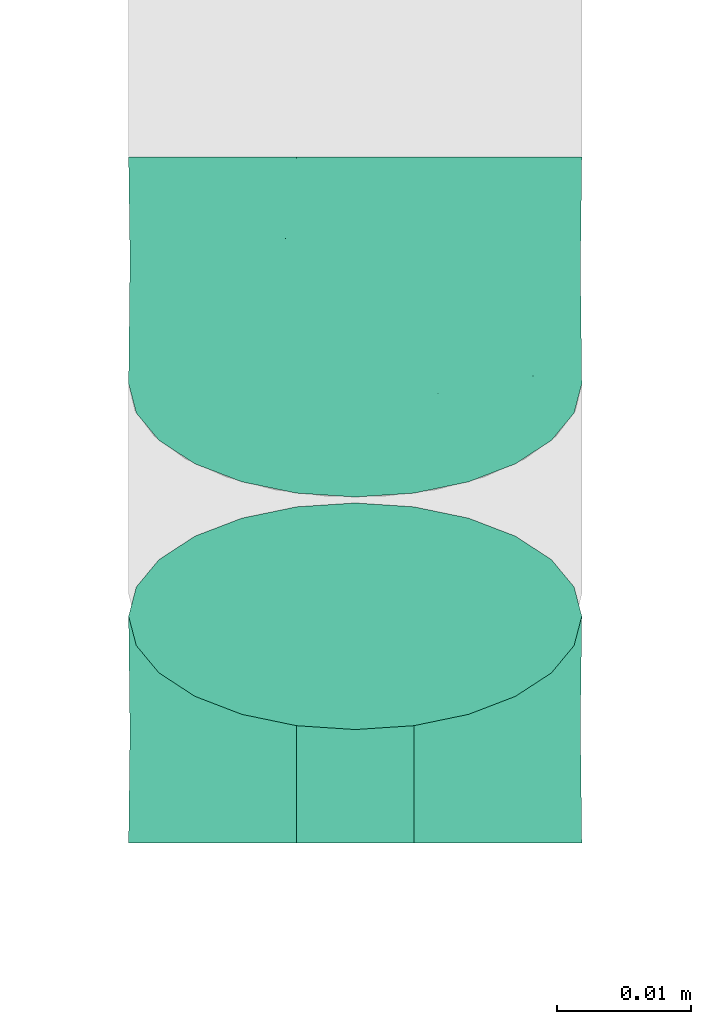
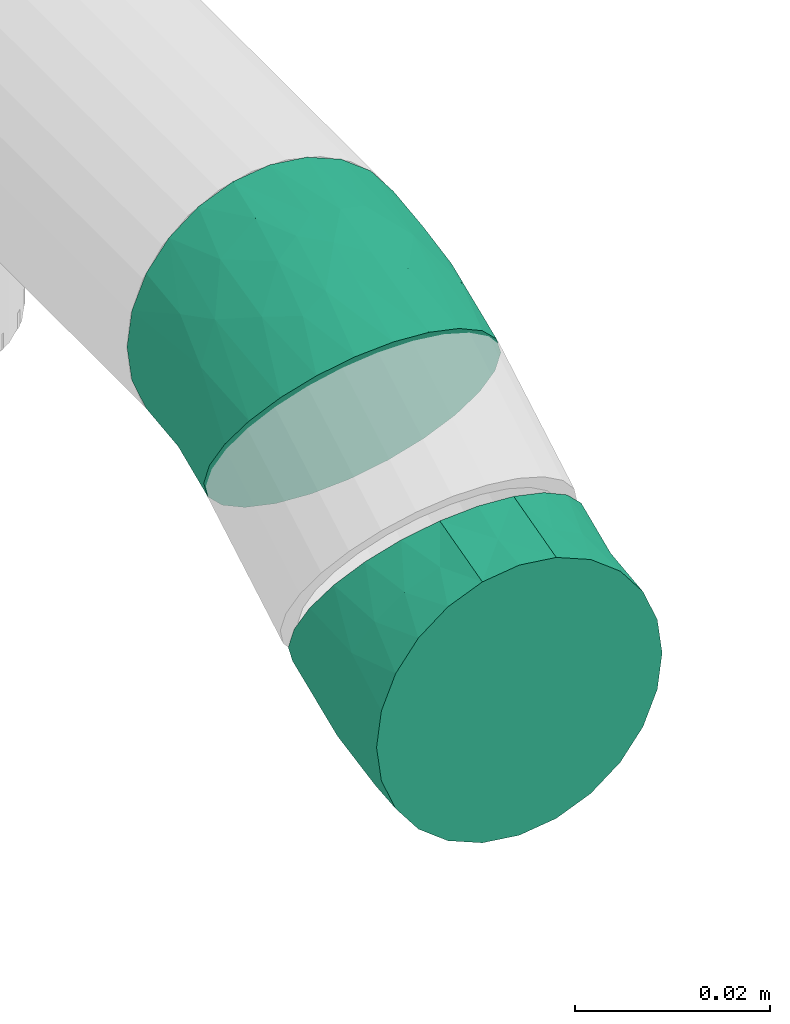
# One storey, part 17 of 17: 2 flow fittings.
"""IFC2X3 building model written with IfcOpenShell, lengths in millimetres."""

from ifc_helpers import new_model, entity, si_unit, converted_unit, derived_unit, direction, frame, origin_with_axes, place, context, subcontext, project, spatial, open_shell, surface_model, source, transform, mapped, type_object, element, save


model = new_model("IFC2X3")

# Units and contexts
model_context = context("Model", 3, precision=0.01, world=frame((0.0, 4.29681676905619e-09, 0.0)), true_north=direction((4.01073788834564e-13, 1.0)))
plan_context = context("Plan", 3, precision=0.01, world=frame((0.0, 4.29681676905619e-09, 0.0)), true_north=direction((4.01073788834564e-13, 1.0)))
body_context = subcontext(model_context, "Body", "Model", "MODEL_VIEW")
ifc_project = project(units=[converted_unit("PLANEANGLEUNIT", "DEGREE", entity("IfcPositiveLengthMeasure", 0.0174532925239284), si_unit("PLANEANGLEUNIT", "RADIAN"), dimensions=[0, 0, 0, 0, 0, 0, 0]), si_unit("AREAUNIT", "SQUARE_METRE"), si_unit("LENGTHUNIT", "METRE", prefix="MILLI"), si_unit("MASSUNIT", "GRAM", prefix="KILO"), si_unit("POWERUNIT", "WATT"), si_unit("PRESSUREUNIT", "PASCAL"), si_unit("FORCEUNIT", "NEWTON", prefix="KILO"), si_unit("ELECTRICVOLTAGEUNIT", "VOLT"), si_unit("ELECTRICCURRENTUNIT", "AMPERE"), si_unit("THERMODYNAMICTEMPERATUREUNIT", "DEGREE_CELSIUS"), si_unit("TIMEUNIT", "SECOND"), si_unit("VOLUMEUNIT", "CUBIC_METRE"), derived_unit("LINEARVELOCITYUNIT", [(si_unit("LENGTHUNIT", "METRE"), 1), (si_unit("TIMEUNIT", "SECOND"), -1)]), derived_unit("VOLUMETRICFLOWRATEUNIT", [(si_unit("VOLUMEUNIT", "CUBIC_METRE"), 1), (si_unit("TIMEUNIT", "SECOND"), -1)]), derived_unit("THERMALTRANSMITTANCEUNIT", [(si_unit("POWERUNIT", "WATT"), 1), (si_unit("THERMODYNAMICTEMPERATUREUNIT", "KELVIN"), -1), (si_unit("AREAUNIT", "SQUARE_METRE"), -1)]), derived_unit("SOUNDPRESSUREUNIT", [(si_unit("PRESSUREUNIT", "PASCAL"), 1)])], contexts=[model_context, plan_context])

# Site, building, storey
site_placement = place(None, frame((0.0, -4.29681676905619e-09, 0.0), z_axis=(0.0, 0.0, 1.0), x_axis=(1.0, 0.0, 0.0)))
site = spatial("IfcSite", under=ifc_project, at=site_placement, Name="ENGM", CompositionType="ELEMENT")
building_placement = place(site_placement, frame((0.0, 4.29681676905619e-09, 0.0), z_axis=(0.0, 0.0, 1.0), x_axis=(1.0, 0.0, 0.0)))
building = spatial("IfcBuilding", under=site, at=building_placement, Name="TH", CompositionType="ELEMENT")
storey_placement = place(building_placement, frame((0.0, 0.0, 205200.0), z_axis=(0.0, 0.0, 1.0), x_axis=(1.0, 0.0, 0.0)))
storey = spatial("IfcBuildingStorey", under=building, at=storey_placement, Name="Nivå D + 1,2 m", CompositionType="ELEMENT", Elevation=205200.0)

# Flow fittings
pipe_fitting_type = type_object("IfcPipeFittingType", Name="magi_pipe_fe_elbow_short_001", PredefinedType="BEND")
shared_shape_1 = source(origin_with_axes(), body_context, "Body", "SurfaceModel", [
    surface_model("IfcShellBasedSurfaceModel", [(-9.05662, 4.37404, -16.32415), (-9.05662, 0.0, -16.9), (-9.05662, 11.9501, -11.9501), (-9.05662, 8.45, -14.63583), (-9.05662, 16.32415, -4.37404), (-9.05662, 14.63583, -8.45), (-9.05662, -14.63583, -8.45), (-9.05662, -16.32415, -4.37404), (-9.05662, -8.45, 14.63583), (-9.05662, -11.9501, -11.9501), (-9.05662, -8.45, -14.63583), (-9.05662, -4.37404, -16.32415), (-9.05662, -16.9, 0.0), (-9.05662, -16.32415, 4.37404), (-9.05662, 11.9501, 11.9501), (-9.05662, 16.32415, 4.37404), (-9.05662, 14.63583, 8.45), (-9.05662, 4.37404, 16.32415), (-9.05662, 8.45, 14.63583), (-9.05662, -14.63583, 8.45), (-9.05662, -11.9501, 11.9501), (-9.05662, -4.37404, 16.32415), (-9.05662, 0.0, 16.9), (-9.05662, 16.9, 0.0), (5.65627, 8.31632, -16.32415), (13.81829, -5.82084, -11.9501), (7.84328, 4.52828, -16.9), (1.86826, 14.8774, -11.9501), (3.6183, 11.84621, -14.63583), (13.81829, -5.82084, 11.9501), (15.16115, -8.14675, -8.45), (0.52541, 17.20331, -8.45), (1.86826, 14.8774, 11.9501), (10.03028, 0.74024, -16.32415), (12.06825, -2.78965, -14.63583), (16.0053, -9.60887, -4.37404), (16.0053, -9.60887, 4.37404), (16.29322, -10.10758, 0.0), (-0.60667, 19.16414, 0.0), (-0.31875, 18.66543, -4.37404), (-0.31875, 18.66543, 4.37404), (0.52541, 17.20331, 8.45), (3.6183, 11.84621, 14.63583), (5.65627, 8.31632, 16.32415), (15.16115, -8.14675, 8.45), (12.06825, -2.78965, 14.63583), (7.84328, 4.52828, 16.9), (10.03028, 0.74024, 16.32415), (3.23519, -12.07399, 9.90621), (-0.48784, -9.71244, 13.20406), (1.46394, -5.46353, 15.45015), (-1.16441, -1.65592, 16.71051), (-0.25354, -14.95401, 6.14714), (0.04135, -15.78334, 3.11142), (6.38377, -14.18251, 3.14057), (-0.78873, 2.94361, 16.79787), (-3.73717, 13.94741, 10.49402), (-2.91099, 10.86406, 13.58335), (7.22683, -7.38252, 13.25433), (-1.86955, 7.12079, 15.73356), (-4.6826, 17.47585, 0.0), (4.06542, -15.17246, 0.0), (8.50871, -13.33201, 0.0), (-0.70281, -15.80021, 0.0), (8.57418, -12.48467, 6.18145), (0.36073, -1.34625, -16.70097), (-1.44637, 2.8041, -16.79471), (3.63901, -4.72838, -15.48641), (-3.73717, 13.94741, -10.49402), (3.06375, -14.28622, -6.02326), (-2.97776, -15.70985, -5.19527), (-1.78767, -13.01496, -10.065), (-2.911, 10.86406, -13.58335), (9.63733, -11.74231, -6.89446), (8.79071, -13.22116, -3.68076), (6.65864, -10.92988, -10.01854), (-1.93993, -7.69397, -14.7215), (2.44468, -9.12373, -13.13184), (-1.97596, 7.09389, -15.73298), (1.57237, -15.49788, -3.00495)], [open_shell([[[0, 1, 2]], [[3, 0, 2]], [[4, 5, 2]], [[6, 2, 1]], [[2, 7, 8]], [[9, 6, 10]], [[1, 11, 10]], [[1, 10, 6]], [[6, 7, 2]], [[12, 13, 7]], [[4, 2, 14]], [[14, 15, 4]], [[16, 15, 14]], [[17, 18, 14]], [[2, 8, 14]], [[17, 14, 8]], [[19, 20, 13]], [[13, 20, 7]], [[21, 22, 8]], [[20, 8, 7]], [[8, 22, 17]], [[23, 4, 15]], [[24, 25, 26]], [[27, 24, 28]], [[29, 30, 24]], [[31, 24, 27]], [[24, 31, 32]], [[33, 25, 34]], [[33, 26, 25]], [[30, 25, 24]], [[30, 29, 35]], [[35, 36, 37]], [[38, 31, 39]], [[32, 38, 40]], [[32, 40, 41]], [[32, 42, 43]], [[32, 29, 24]], [[29, 32, 43]], [[44, 36, 35]], [[29, 44, 35]], [[45, 46, 47]], [[46, 45, 29]], [[43, 46, 29]], [[38, 32, 31]], [[19, 48, 20]], [[49, 50, 8]], [[8, 20, 49]], [[44, 29, 48]], [[22, 21, 51]], [[21, 8, 50]], [[52, 53, 54]], [[51, 55, 22]], [[22, 55, 17]], [[46, 43, 55]], [[48, 19, 52]], [[45, 47, 50]], [[14, 56, 16]], [[57, 14, 18]], [[58, 48, 29]], [[20, 48, 49]], [[17, 59, 18]], [[60, 15, 40]], [[19, 13, 52]], [[60, 23, 15]], [[40, 15, 16]], [[21, 50, 51]], [[17, 55, 59]], [[57, 59, 42]], [[53, 61, 54]], [[62, 54, 61]], [[51, 46, 55]], [[45, 58, 29]], [[12, 63, 53]], [[51, 47, 46]], [[48, 58, 49]], [[52, 64, 48]], [[32, 41, 56]], [[49, 58, 50]], [[50, 58, 45]], [[37, 36, 62]], [[13, 53, 52]], [[57, 56, 14]], [[41, 40, 16]], [[38, 60, 40]], [[54, 36, 64]], [[48, 64, 44]], [[36, 54, 62]], [[43, 59, 55]], [[42, 32, 57]], [[32, 56, 57]], [[12, 53, 13]], [[16, 56, 41]], [[43, 42, 59]], [[59, 57, 18]], [[52, 54, 64]], [[44, 64, 36]], [[61, 53, 63]], [[47, 51, 50]], [[1, 65, 11]], [[26, 66, 24]], [[33, 34, 67]], [[65, 1, 66]], [[68, 2, 5]], [[69, 70, 71]], [[2, 68, 72]], [[73, 35, 74]], [[39, 5, 4]], [[25, 30, 75]], [[76, 67, 77]], [[0, 78, 66]], [[79, 70, 69]], [[6, 70, 7]], [[79, 7, 70]], [[71, 70, 6]], [[9, 10, 76]], [[24, 78, 28]], [[7, 79, 63]], [[6, 9, 71]], [[67, 76, 11]], [[78, 72, 28]], [[72, 68, 27]], [[77, 71, 9]], [[4, 23, 60]], [[37, 74, 35]], [[60, 38, 39]], [[31, 68, 5]], [[73, 75, 30]], [[39, 31, 5]], [[68, 31, 27]], [[71, 77, 75]], [[24, 66, 78]], [[11, 65, 67]], [[1, 0, 66]], [[2, 72, 3]], [[78, 0, 3]], [[65, 66, 26]], [[33, 67, 65]], [[34, 77, 67]], [[72, 78, 3]], [[77, 34, 25]], [[74, 79, 69]], [[69, 71, 75]], [[79, 74, 61]], [[63, 12, 7]], [[37, 62, 74]], [[25, 75, 77]], [[27, 28, 72]], [[33, 65, 26]], [[74, 62, 61]], [[4, 60, 39]], [[73, 74, 69]], [[63, 79, 61]], [[75, 73, 69]], [[35, 73, 30]], [[9, 76, 77]], [[11, 76, 10]]])]),
])
flow_fitting_1_placement = place(storey_placement, frame((908433.37511, 482177.07235, 4451.24450999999), z_axis=(1.0, 0.0, 0.0), x_axis=(0.0, -1.0, 0.0)))
element("IfcFlowFitting", 1, at=flow_fitting_1_placement, inside=storey, type_object=pipe_fitting_type, Name="magi_pipe_fe_elbow_short_001", context=body_context, shape_type="MappedRepresentation", body=[
    mapped(shared_shape_1, transform((0.0, 0.0, 0.0), scale=1.0)),
])
shared_shape_2 = source(origin_with_axes(), body_context, "Body", "SurfaceModel", [
    surface_model("IfcShellBasedSurfaceModel", [(-9.0568, 4.37404, -16.32415), (-9.0568, 0.0, -16.9), (-9.0568, 11.9501, -11.9501), (-9.0568, 8.45, -14.63583), (-9.0568, 16.32415, -4.37404), (-9.0568, 14.63583, -8.45), (-9.0568, -14.63583, -8.45), (-9.0568, -16.32415, -4.37404), (-9.0568, -8.45, 14.63583), (-9.0568, -11.9501, -11.9501), (-9.0568, -8.45, -14.63583), (-9.0568, -4.37404, -16.32415), (-9.0568, -16.9, 0.0), (-9.0568, -16.32415, 4.37404), (-9.0568, 11.9501, 11.9501), (-9.0568, 16.32415, 4.37404), (-9.0568, 14.63583, 8.45), (-9.0568, 4.37404, 16.32415), (-9.0568, 8.45, 14.63583), (-9.0568, -14.63583, 8.45), (-9.0568, -11.9501, 11.9501), (-9.0568, -4.37404, 16.32415), (-9.0568, 0.0, 16.9), (-9.0568, 16.9, 0.0), (5.65635, 8.31647, -16.32415), (13.81852, -5.8206, -11.9501), (7.84339, 4.52846, -16.9), (1.86827, 14.87751, -11.9501), (3.61834, 11.84634, -14.63583), (0.52539, 17.20341, -8.45), (1.86827, 14.87751, 11.9501), (16.00556, -9.60861, -4.37404), (10.03044, 0.74044, -16.32415), (12.06844, -2.78943, -14.63583), (15.16139, -8.1465, -8.45), (16.00556, -9.60861, 4.37404), (16.29349, -10.10732, 0.0), (-0.60671, 19.16423, 0.0), (-0.31878, 18.66553, -4.37404), (-0.31878, 18.66553, 4.37404), (0.52539, 17.20341, 8.45), (3.61834, 11.84634, 14.63583), (5.65635, 8.31647, 16.32415), (13.81852, -5.8206, 11.9501), (7.84339, 4.52846, 16.9), (15.16139, -8.1465, 8.45), (12.06844, -2.78943, 14.63583), (10.03044, 0.74044, 16.32415), (-3.77962, -13.23483, 10.12672), (-0.48798, -9.71244, 13.20405), (1.46396, -5.46349, 15.45014), (9.89073, -9.57182, 10.12672), (-1.16458, -1.65592, 16.71051), (-0.25366, -14.954, 6.14713), (0.04154, -15.78327, 3.1114), (6.38396, -14.1824, 3.14054), (-0.78876, 2.94364, 16.79787), (3.23524, -12.07393, 9.9062), (-3.73725, 13.94743, 10.49403), (-2.91106, 10.86408, 13.58336), (7.22686, -7.38245, 13.25432), (-1.86947, 7.12086, 15.73356), (-4.68271, 17.47587, 0.0), (-4.32655, 16.14669, 6.67964), (4.06549, -15.1724, 0.0), (8.509, -13.3318, 0.0), (-0.703, -15.80019, 0.0), (8.57425, -12.48458, 6.18144), (0.36072, -1.34622, -16.70096), (-1.44653, 2.8041, -16.79471), (3.63919, -4.72826, -15.4864), (-3.73725, 13.94743, -10.49403), (3.06356, -14.28622, -6.02325), (-2.9779, -15.70987, -5.19521), (-1.78762, -13.01494, -10.06499), (-2.91106, 10.86408, -13.58336), (9.63724, -11.74222, -6.89458), (8.79068, -13.2211, -3.68079), (-4.32655, 16.14669, -6.67964), (6.65886, -10.92975, -10.01853), (-1.93998, -7.69391, -14.72152), (2.44472, -9.12369, -13.13183), (-1.97614, 7.09388, -15.73298), (1.57231, -15.49785, -3.00492)], [open_shell([[[0, 1, 2]], [[3, 0, 2]], [[4, 5, 2]], [[6, 2, 1]], [[2, 7, 8]], [[9, 6, 10]], [[1, 11, 10]], [[1, 10, 6]], [[6, 7, 2]], [[12, 13, 7]], [[4, 2, 14]], [[14, 15, 4]], [[16, 15, 14]], [[17, 18, 14]], [[2, 8, 14]], [[17, 14, 8]], [[19, 20, 13]], [[13, 20, 7]], [[21, 22, 8]], [[20, 8, 7]], [[8, 22, 17]], [[23, 4, 15]], [[24, 25, 26]], [[27, 24, 28]], [[25, 27, 29]], [[24, 27, 25]], [[30, 31, 29]], [[32, 25, 33]], [[32, 26, 25]], [[29, 34, 25]], [[31, 34, 29]], [[31, 35, 36]], [[37, 29, 38]], [[37, 39, 40]], [[37, 40, 30]], [[30, 41, 42]], [[30, 43, 31]], [[44, 30, 42]], [[31, 45, 35]], [[43, 45, 31]], [[46, 44, 47]], [[44, 46, 43]], [[30, 44, 43]], [[29, 37, 30]], [[19, 48, 20]], [[49, 50, 8]], [[8, 20, 49]], [[45, 43, 51]], [[22, 21, 52]], [[21, 8, 50]], [[53, 54, 55]], [[52, 56, 22]], [[22, 56, 17]], [[44, 42, 56]], [[48, 53, 57]], [[46, 47, 50]], [[14, 58, 16]], [[59, 14, 18]], [[57, 51, 60]], [[48, 49, 20]], [[17, 61, 18]], [[62, 15, 39]], [[19, 13, 53]], [[62, 23, 15]], [[15, 16, 63]], [[21, 50, 52]], [[17, 56, 61]], [[59, 61, 41]], [[54, 64, 55]], [[65, 55, 64]], [[52, 44, 56]], [[46, 60, 43]], [[12, 66, 54]], [[52, 47, 44]], [[57, 60, 49]], [[53, 67, 57]], [[30, 40, 58]], [[49, 60, 50]], [[50, 60, 46]], [[36, 35, 65]], [[15, 63, 39]], [[59, 58, 14]], [[40, 39, 63]], [[37, 62, 39]], [[55, 35, 67]], [[67, 45, 51]], [[35, 55, 65]], [[42, 61, 56]], [[41, 30, 59]], [[30, 58, 59]], [[12, 54, 13]], [[58, 40, 63]], [[42, 41, 61]], [[61, 59, 18]], [[53, 55, 67]], [[45, 67, 35]], [[58, 63, 16]], [[47, 52, 50]], [[53, 48, 19]], [[49, 48, 57]], [[60, 51, 43]], [[67, 51, 57]], [[13, 54, 53]], [[64, 54, 66]], [[1, 68, 11]], [[26, 69, 24]], [[32, 33, 70]], [[68, 1, 69]], [[71, 2, 5]], [[72, 73, 74]], [[2, 71, 75]], [[76, 31, 77]], [[78, 4, 38]], [[25, 34, 79]], [[80, 70, 81]], [[0, 82, 69]], [[83, 73, 72]], [[6, 73, 7]], [[83, 7, 73]], [[74, 73, 6]], [[9, 10, 80]], [[24, 82, 28]], [[7, 83, 66]], [[6, 9, 74]], [[70, 80, 11]], [[82, 75, 28]], [[75, 71, 27]], [[81, 74, 9]], [[4, 23, 62]], [[36, 77, 31]], [[62, 37, 38]], [[71, 5, 78]], [[76, 79, 34]], [[38, 29, 78]], [[71, 29, 27]], [[74, 81, 79]], [[24, 69, 82]], [[11, 68, 70]], [[1, 0, 69]], [[2, 75, 3]], [[82, 0, 3]], [[68, 69, 26]], [[32, 70, 68]], [[33, 81, 70]], [[75, 82, 3]], [[81, 33, 25]], [[77, 83, 72]], [[72, 74, 79]], [[83, 77, 64]], [[66, 12, 7]], [[36, 65, 77]], [[25, 79, 81]], [[27, 28, 75]], [[32, 68, 26]], [[77, 65, 64]], [[4, 62, 38]], [[76, 77, 72]], [[66, 83, 64]], [[79, 76, 72]], [[31, 76, 34]], [[71, 78, 29]], [[4, 78, 5]], [[9, 80, 81]], [[11, 80, 10]]])]),
])
flow_fitting_2_placement = place(storey_placement, frame((908433.37511, 482144.043, 4432.17517), z_axis=(-1.0, 0.0, 0.0), x_axis=(0.0, -0.866025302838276, -0.500000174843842)))
element("IfcFlowFitting", 2, at=flow_fitting_2_placement, inside=storey, type_object=pipe_fitting_type, Name="magi_pipe_fe_elbow_short_001", context=body_context, shape_type="MappedRepresentation", body=[
    mapped(shared_shape_2, transform((0.0, 0.0, 0.0), scale=1.0)),
])

save(model, "model.ifc")
